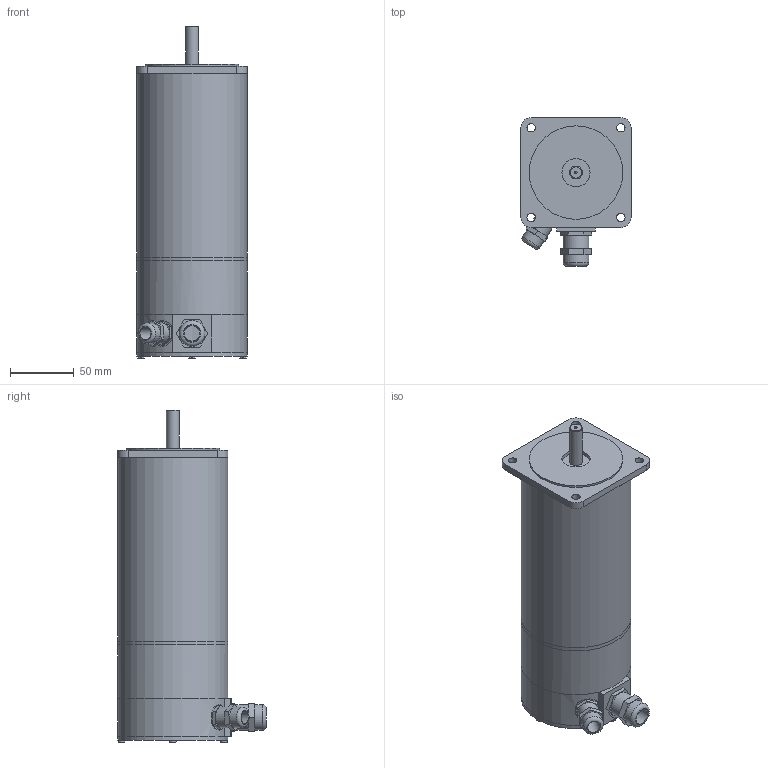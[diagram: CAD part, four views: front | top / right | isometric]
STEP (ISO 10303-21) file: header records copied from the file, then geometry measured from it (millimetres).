
FILE_DESCRIPTION((''),'2;1');
FILE_NAME('C:\Users\Reinhard\Documents\Inventor\Testschrittmotor\SM87\SM87.4-B-KV.stp','2012-11-14T20:36:01',('Reinhard'),(''),'Autodesk Inventor 2012','Autodesk Inventor 2012','');
FILE_SCHEMA(('CONFIG_CONTROL_DESIGN'));
Length unit declared in the file: millimetre
Products named in the file (1): SM87
Bounding box: 86 x 115.99 x 259.4 mm (x, y, z)
Volume: 220196.6 mm3; surface area: 160866 mm2
Topology: 2 solids, 3 shells, 142 faces, 317 edges, 205 vertices
Faces by surface type: plane 86, cylinder 49, cone 3, sphere 2, torus 2
Full cylindrical faces by diameter (mm): 2 x1, 5 x4, 6.6 x4, 10 x2, 12 x2, 13 x2, 15 x1, 16 x2, 18.376 x1, 20 x3, 22 x1, 73 x1, 78 x2, 82 x2, 86 x4
Entity records: 3824 total; most frequent: CARTESIAN_POINT 737, DIRECTION 653, ORIENTED_EDGE 540, EDGE_CURVE 270, AXIS2_PLACEMENT_3D 253, EDGE_LOOP 217, VERTEX_POINT 195, VECTOR 147
